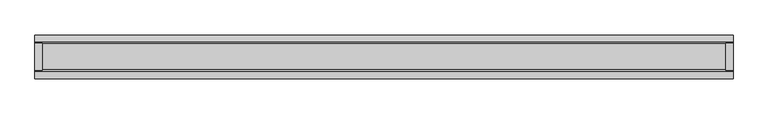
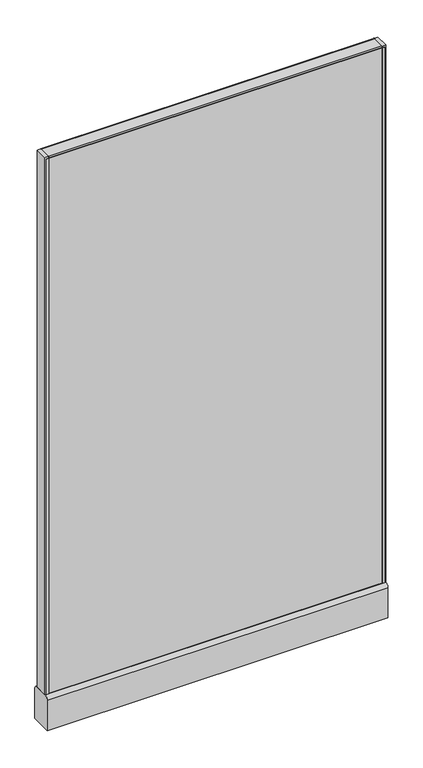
"""IFC4 building model written with IfcOpenShell, lengths in millimetres: furniture geometry."""

from ifc_helpers import new_model, si_unit, point, frame, frame_2d, origin, place, context, project, spatial, polyline, circle_curve, trimmed, segment, composite_curve, outline, extrude, source, transform, mapped, element, save
from ifc_brep_helpers import plane_surface, cylinder_surface, advanced_brep


def furniture_c7a52ff1(model_context):
    return source(origin(), model_context, "Body", "SolidModel", [
        advanced_brep(
        [(552.45, 0.0, 0.0), (577.85, 0.0, 0.0), (565.15, 0.0, 0.0), (552.45, 0.0, 4.7625), (577.85, 0.0, 4.7625), (558.8, 0.0, 4.7625), (571.5, 0.0, 4.7625), (558.8, 0.0, 111.125), (571.5, 0.0, 111.125), (565.15, 0.0, 111.125)],
        [
            (0, 1, circle_curve(frame((565.15, 0.0, 0.0), z_axis=(0.0, 0.0, -1.0), x_axis=(1.0, 0.0, 0.0)), 12.7)),
            (1, 2),
            (2, 0),
            (1, 0, circle_curve(frame((565.15, 0.0, 0.0), z_axis=(0.0, 0.0, -1.0), x_axis=(1.0, 0.0, 0.0)), 12.7)),
            (3, 4, circle_curve(frame((565.15, 0.0, 4.7625), z_axis=(0.0, 0.0, -1.0), x_axis=(1.0, 0.0, 0.0)), 12.7)),
            (4, 1),
            (0, 3),
            (4, 3, circle_curve(frame((565.15, 0.0, 4.7625), z_axis=(0.0, 0.0, -1.0), x_axis=(1.0, 0.0, 0.0)), 12.7)),
            (5, 6, circle_curve(frame((565.15, 0.0, 4.7625), z_axis=(0.0, 0.0, -1.0), x_axis=(1.0, 0.0, 0.0)), 6.35)),
            (6, 4),
            (3, 5),
            (6, 5, circle_curve(frame((565.15, 0.0, 4.7625), z_axis=(0.0, 0.0, -1.0), x_axis=(1.0, 0.0, 0.0)), 6.35)),
            (7, 8, circle_curve(frame((565.15, 0.0, 111.125), z_axis=(0.0, 0.0, -1.0), x_axis=(1.0, 0.0, 0.0)), 6.35)),
            (8, 6),
            (5, 7),
            (8, 7, circle_curve(frame((565.15, 0.0, 111.125), z_axis=(0.0, 0.0, -1.0), x_axis=(1.0, 0.0, 0.0)), 6.35)),
            (9, 8),
            (7, 9),
        ],
        [
            plane_surface(frame((565.15, 0.0, 0.0), z_axis=(0.0, 0.0, -1.0), x_axis=(1.0, 0.0, 0.0))),
            cylinder_surface(frame((565.15, 0.0, 114.882153), z_axis=(0.0, 0.0, 1.0), x_axis=(1.0, 0.0, 0.0)), 12.7),
            plane_surface(frame((565.15, 0.0, 4.7625), z_axis=(0.0, 0.0, 1.0), x_axis=(1.0, 0.0, 0.0))),
            cylinder_surface(frame((565.15, 0.0, 114.882153), z_axis=(0.0, 0.0, 1.0), x_axis=(1.0, 0.0, 0.0)), 6.35),
            plane_surface(frame((565.15, 0.0, 111.125), z_axis=(0.0, 0.0, 1.0), x_axis=(1.0, 0.0, 0.0))),
        ],
        [
            (0, [[1, 2, 3]]),
            (0, [[4, -3, -2]]),
            (1, [[5, 6, -1, 7]]),
            (1, [[8, -7, -4, -6]]),
            (2, [[9, 10, -5, 11]]),
            (2, [[12, -11, -8, -10]]),
            (3, [[13, 14, -9, 15]]),
            (3, [[16, -15, -12, -14]]),
            (4, [[17, -13, 18]]),
            (4, [[-18, -16, -17]]),
        ],
    ),
        advanced_brep(
        [(-577.85, 0.0, 4.7625), (-552.45, 0.0, 4.7625), (-552.45, 0.0, 0.0), (-577.85, 0.0, 0.0), (-571.5, 0.0, 4.7625), (-558.8, 0.0, 4.7625), (-571.5, 0.0, 111.125), (-558.8, 0.0, 111.125), (-565.15, 0.0, 111.125), (-565.15, 0.0, 0.0)],
        [
            (0, 1, circle_curve(frame((-565.15, 0.0, 4.7625), z_axis=(0.0, 0.0, -1.0), x_axis=(1.0, 0.0, 0.0)), 12.7)),
            (1, 2),
            (2, 3, circle_curve(frame((-565.15, 0.0, 0.0), z_axis=(0.0, 0.0, 1.0), x_axis=(1.0, 0.0, 0.0)), 12.7)),
            (3, 0),
            (1, 0, circle_curve(frame((-565.15, 0.0, 4.7625), z_axis=(0.0, 0.0, -1.0), x_axis=(1.0, 0.0, 0.0)), 12.7)),
            (3, 2, circle_curve(frame((-565.15, 0.0, 0.0), z_axis=(0.0, 0.0, 1.0), x_axis=(1.0, 0.0, 0.0)), 12.7)),
            (4, 5, circle_curve(frame((-565.15, 0.0, 4.7625), z_axis=(0.0, 0.0, -1.0), x_axis=(1.0, 0.0, 0.0)), 6.35)),
            (5, 1),
            (0, 4),
            (5, 4, circle_curve(frame((-565.15, 0.0, 4.7625), z_axis=(0.0, 0.0, -1.0), x_axis=(1.0, 0.0, 0.0)), 6.35)),
            (6, 7, circle_curve(frame((-565.15, 0.0, 111.125), z_axis=(0.0, 0.0, -1.0), x_axis=(1.0, 0.0, 0.0)), 6.35)),
            (7, 5),
            (4, 6),
            (7, 6, circle_curve(frame((-565.15, 0.0, 111.125), z_axis=(0.0, 0.0, -1.0), x_axis=(1.0, 0.0, 0.0)), 6.35)),
            (8, 7),
            (6, 8),
            (2, 9),
            (9, 3),
        ],
        [
            cylinder_surface(frame((-565.15, 0.0, 123.825), z_axis=(0.0, 0.0, 1.0), x_axis=(1.0, 0.0, 0.0)), 12.7),
            plane_surface(frame((-565.15, 0.0, 4.7625), z_axis=(0.0, 0.0, 1.0), x_axis=(1.0, 0.0, 0.0))),
            cylinder_surface(frame((-565.15, 0.0, 123.825), z_axis=(0.0, 0.0, 1.0), x_axis=(1.0, 0.0, 0.0)), 6.35),
            plane_surface(frame((-565.15, 0.0, 111.125), z_axis=(0.0, 0.0, 1.0), x_axis=(1.0, 0.0, 0.0))),
            plane_surface(frame((-565.15, 0.0, 0.0), z_axis=(0.0, 0.0, -1.0), x_axis=(1.0, 0.0, 0.0))),
        ],
        [
            (0, [[1, 2, 3, 4]]),
            (0, [[5, -4, 6, -2]]),
            (1, [[7, 8, -1, 9]]),
            (1, [[10, -9, -5, -8]]),
            (2, [[11, 12, -7, 13]]),
            (2, [[14, -13, -10, -12]]),
            (3, [[15, -11, 16]]),
            (3, [[-16, -14, -15]]),
            (4, [[-3, 17, 18]]),
            (4, [[-6, -18, -17]]),
        ],
    ),
        extrude(outline(polyline([(-609.6, 23.8125), (-596.9, 23.8125), (-596.9, -23.8125), (-609.6, -23.8125), (-609.6, 23.8125)])), frame((0.0, 0.0, 136.525), z_axis=(0.0, 0.0, 1.0), x_axis=(1.0, 0.0, 0.0)), (0.0, 0.0, 1.0), 2032.0),
        extrude(outline(polyline([(596.9, -23.8125), (596.9, 23.8125), (609.6, 23.8125), (609.6, -23.8125), (596.9, -23.8125)])), frame((0.0, 0.0, 136.525), z_axis=(0.0, 0.0, 1.0), x_axis=(1.0, 0.0, 0.0)), (0.0, 0.0, 1.0), 2032.0),
        extrude(outline(polyline([(-596.9, 25.4), (-596.9, 23.8125), (-604.8375, 23.8125), (-604.8375, 25.4), (-596.9, 25.4)])), frame((0.0, 0.0, 136.525), z_axis=(0.0, 0.0, 1.0), x_axis=(1.0, 0.0, 0.0)), (0.0, 0.0, 1.0), 2025.65),
        extrude(outline(polyline([(-596.9, -25.4), (-604.8375, -25.4), (-604.8375, -23.8125), (-596.9, -23.8125), (-596.9, -25.4)])), frame((0.0, 0.0, 136.525), z_axis=(0.0, 0.0, 1.0), x_axis=(1.0, 0.0, 0.0)), (0.0, 0.0, 1.0), 2025.65),
        extrude(outline(polyline([(604.8375, 23.8125), (596.9, 23.8125), (596.9, 25.4), (604.8375, 25.4), (604.8375, 23.8125)])), frame((0.0, 0.0, 136.525), z_axis=(0.0, 0.0, 1.0), x_axis=(1.0, 0.0, 0.0)), (0.0, 0.0, 1.0), 2025.65),
        extrude(outline(polyline([(596.9, -25.4), (596.9, -23.8125), (604.8375, -23.8125), (604.8375, -25.4), (596.9, -25.4)])), frame((0.0, 0.0, 136.525), z_axis=(0.0, 0.0, 1.0), x_axis=(1.0, 0.0, 0.0)), (0.0, 0.0, 1.0), 2025.65),
        extrude(outline(composite_curve([segment(trimmed(circle_curve(frame_2d((22.225, 2165.35)), 3.175), [point((22.225, 2168.525))], [point((25.4, 2165.35))], False, "CARTESIAN"), True, "CONTINUOUS"), segment(polyline([(25.4, 2165.35), (25.4, 2162.175), (-25.4, 2162.175), (-25.4, 2165.35)]), True, "CONTINUOUS"), segment(trimmed(circle_curve(frame_2d((-22.225, 2165.35)), 3.175), [point((-25.4, 2165.35))], [point((-22.225, 2168.525))], False, "CARTESIAN"), True, "CONTINUOUS"), segment(polyline([(-22.225, 2168.525), (22.225, 2168.525)]), True, "CONTINUOUS")], self_intersect=False)), frame((-596.9, 0.0, 0.0), z_axis=(1.0, 0.0, 0.0), x_axis=(0.0, 1.0, 0.0)), (0.0, 0.0, 1.0), 1193.8),
        extrude(outline(composite_curve([segment(trimmed(circle_curve(frame_2d((25.4, 123.825)), 12.7), [point((25.4, 136.525))], [point((38.1, 123.825))], False, "CARTESIAN"), True, "CONTINUOUS"), segment(polyline([(38.1, 123.825), (38.1, 9.525), (-38.1, 9.525), (-38.1, 123.825)]), True, "CONTINUOUS"), segment(trimmed(circle_curve(frame_2d((-25.4, 123.825)), 12.7), [point((-38.1, 123.825))], [point((-25.4, 136.525))], False, "CARTESIAN"), True, "CONTINUOUS"), segment(polyline([(-25.4, 136.525), (25.4, 136.525)]), True, "CONTINUOUS")], self_intersect=False)), frame((-609.6, 0.0, 0.0), z_axis=(1.0, 0.0, 0.0), x_axis=(0.0, 1.0, 0.0)), (0.0, 0.0, 1.0), 1219.2),
        extrude(outline(polyline([(596.9, 23.8125), (596.9, -23.8125), (-596.9, -23.8125), (-596.9, 23.8125), (596.9, 23.8125)])), frame((0.0, 0.0, 136.525), z_axis=(0.0, 0.0, 1.0), x_axis=(1.0, 0.0, 0.0)), (0.0, 0.0, 1.0), 2025.65),
    ])


if __name__ == "__main__":
    model = new_model("IFC4")
    model_context = context("Model", 3, world=origin())
    ifc_project = project(units=[si_unit("LENGTHUNIT", "METRE", prefix="MILLI")], contexts=[model_context])
    site = spatial("IfcSite", under=ifc_project)
    building = spatial("IfcBuilding", under=site)
    placement = place(None, origin())
    furniture_shape = furniture_c7a52ff1(model_context)
    element("IfcFurniture", 1, ObjectType="HermanMiller_ActionOffice_A1110_Hard-SurfacedPanelStandardBase : 85\"H x 48\"W-N", at=placement, inside=building, context=model_context, shape_type="MappedRepresentation", body=[
        mapped(furniture_shape, transform((0.0, 0.0, 0.0), x_axis=(1.0, 0.0, 0.0), y_axis=(0.0, 1.0, 0.0), z_axis=(0.0, 0.0, 1.0))),
    ])
    save(model, "model.ifc")
